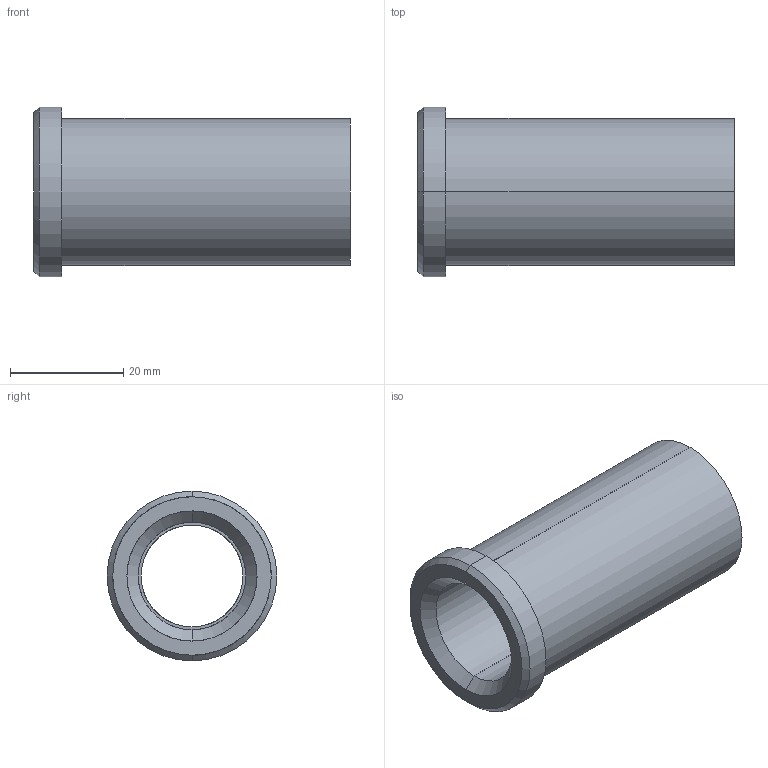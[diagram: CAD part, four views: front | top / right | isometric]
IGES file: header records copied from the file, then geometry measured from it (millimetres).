
Start section: START RECORD GO HERE.
Global section: file name: 353-18X56.igs; native system: DASSAULT SYSTEMES CATIA V5 R20 - www.3ds.com; preprocessor: CATIA Version 5 Release 20 ; author: Utente; organization: NB04-ASUS; date: 20210508.104201; units: millimetre
Bounding box: 56 x 30 x 30 mm (x, y, z)
Surface area: 8614.7 mm2 (no closed solid volume)
Topology: 0 solids, 0 shells, 18 faces, 116 edges, 116 vertices
Faces by surface type: revolution 14, plane 4
